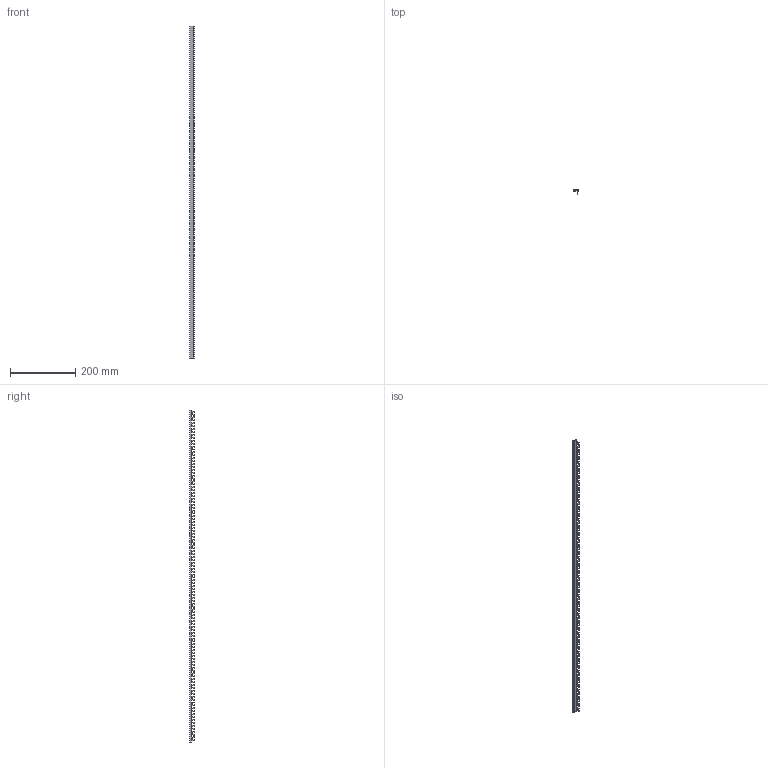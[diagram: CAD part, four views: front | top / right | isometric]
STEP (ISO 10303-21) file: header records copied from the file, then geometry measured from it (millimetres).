
FILE_DESCRIPTION (( 'STEP AP214' ), '1' );
FILE_NAME ('G1L-1000-12.step', '2011-08-05T07:41:19', ( 'Radek Veselý' ), ( 'Siemens and Partners' ), 'SwSTEP 2.0', 'SolidWorks 2006303', '' );
FILE_SCHEMA (( 'AUTOMOTIVE_DESIGN' ));
Length unit declared in the file: millimetre
Products named in the file (1): G1L-1000-12
Bounding box: 14.36 x 14.64 x 1016 mm (x, y, z)
Volume: 50380 mm3; surface area: 94016.5 mm2
Topology: 2 solids, 2 shells, 1162 faces, 2794 edges, 1636 vertices
Faces by surface type: cylinder 639, plane 523
Entity records: 45318 total; most frequent: CARTESIAN_POINT 6961, ORIENTED_EDGE 5588, DIRECTION 5030, EDGE_CURVE 2794, VECTOR 1972, LINE 1972, VERTEX_POINT 1636, AXIS2_PLACEMENT_3D 1529
